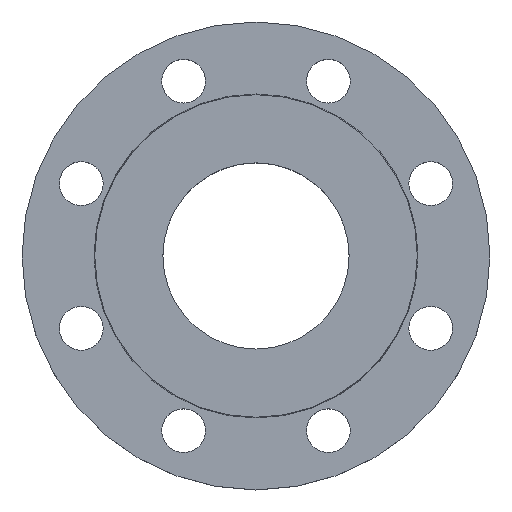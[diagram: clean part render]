
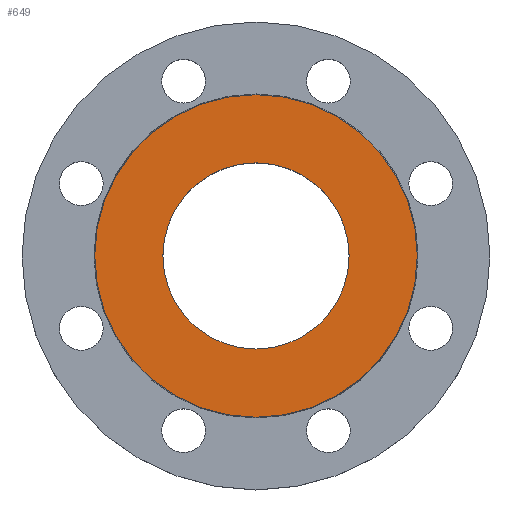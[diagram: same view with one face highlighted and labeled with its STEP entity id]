
A CAD part, top view. The second image highlights one B-rep face of the part: STEP entity #649.
In plain terms, the highlighted planar face has unit normal (0, 0, 1).
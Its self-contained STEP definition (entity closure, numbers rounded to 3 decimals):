
#23 = CIRCLE ( 'NONE', #504, 46.753 ) ;
#98 = AXIS2_PLACEMENT_3D ( 'NONE', #426, #425, #423 ) ;
#121 = CARTESIAN_POINT ( 'NONE',  ( -46.753, 0., 0. ) ) ;
#122 = CARTESIAN_POINT ( 'NONE',  ( 46.753, 0., 0. ) ) ;
#192 = CARTESIAN_POINT ( 'NONE',  ( 81., 0., 0. ) ) ;
#206 = DIRECTION ( 'NONE',  ( -1., 0., 0. ) ) ;
#207 = DIRECTION ( 'NONE',  ( 0., 0., -1. ) ) ;
#208 = CARTESIAN_POINT ( 'NONE',  ( 0., 0., 0. ) ) ;
#266 = AXIS2_PLACEMENT_3D ( 'NONE', #677, #678, #679 ) ;
#267 = CIRCLE ( 'NONE', #266, 46.753 ) ;
#288 = AXIS2_PLACEMENT_3D ( 'NONE', #674, #675, #676 ) ;
#291 = CIRCLE ( 'NONE', #288, 81. ) ;
#305 = EDGE_CURVE ( 'NONE', #817, #614, #291, .T. ) ;
#315 = EDGE_CURVE ( 'NONE', #963, #954, #267, .T. ) ;
#416 = CIRCLE ( 'NONE', #447, 81. ) ;
#423 = DIRECTION ( 'NONE',  ( 1., 0., 0. ) ) ;
#425 = DIRECTION ( 'NONE',  ( 0., 0., 1. ) ) ;
#426 = CARTESIAN_POINT ( 'NONE',  ( 0., 0., 0. ) ) ;
#427 = PLANE ( 'NONE',  #98 ) ;
#428 = FACE_OUTER_BOUND ( 'NONE', #750, .T. ) ;
#432 = FACE_BOUND ( 'NONE', #755, .T. ) ;
#447 = AXIS2_PLACEMENT_3D ( 'NONE', #208, #207, #206 ) ;
#467 = CARTESIAN_POINT ( 'NONE',  ( -81., 0., 0. ) ) ;
#490 = DIRECTION ( 'NONE',  ( 1., 0., 0. ) ) ;
#492 = DIRECTION ( 'NONE',  ( 0., 0., 1. ) ) ;
#504 = AXIS2_PLACEMENT_3D ( 'NONE', #532, #492, #490 ) ;
#532 = CARTESIAN_POINT ( 'NONE',  ( 0., 0., 0. ) ) ;
#574 = EDGE_CURVE ( 'NONE', #954, #963, #23, .T. ) ;
#614 = VERTEX_POINT ( 'NONE', #467 ) ;
#649 = ADVANCED_FACE ( 'NONE', ( #432, #428 ), #427, .T. ) ;
#674 = CARTESIAN_POINT ( 'NONE',  ( 0., 0., 0. ) ) ;
#675 = DIRECTION ( 'NONE',  ( 0., 0., -1. ) ) ;
#676 = DIRECTION ( 'NONE',  ( -1., 0., 0. ) ) ;
#677 = CARTESIAN_POINT ( 'NONE',  ( 0., 0., 0. ) ) ;
#678 = DIRECTION ( 'NONE',  ( 0., 0., 1. ) ) ;
#679 = DIRECTION ( 'NONE',  ( 1., 0., 0. ) ) ;
#750 = EDGE_LOOP ( 'NONE', ( #944, #945 ) ) ;
#755 = EDGE_LOOP ( 'NONE', ( #942, #943 ) ) ;
#809 = EDGE_CURVE ( 'NONE', #614, #817, #416, .T. ) ;
#817 = VERTEX_POINT ( 'NONE', #192 ) ;
#942 = ORIENTED_EDGE ( 'NONE', *, *, #574, .F. ) ;
#943 = ORIENTED_EDGE ( 'NONE', *, *, #315, .F. ) ;
#944 = ORIENTED_EDGE ( 'NONE', *, *, #809, .F. ) ;
#945 = ORIENTED_EDGE ( 'NONE', *, *, #305, .F. ) ;
#954 = VERTEX_POINT ( 'NONE', #122 ) ;
#963 = VERTEX_POINT ( 'NONE', #121 ) ;
